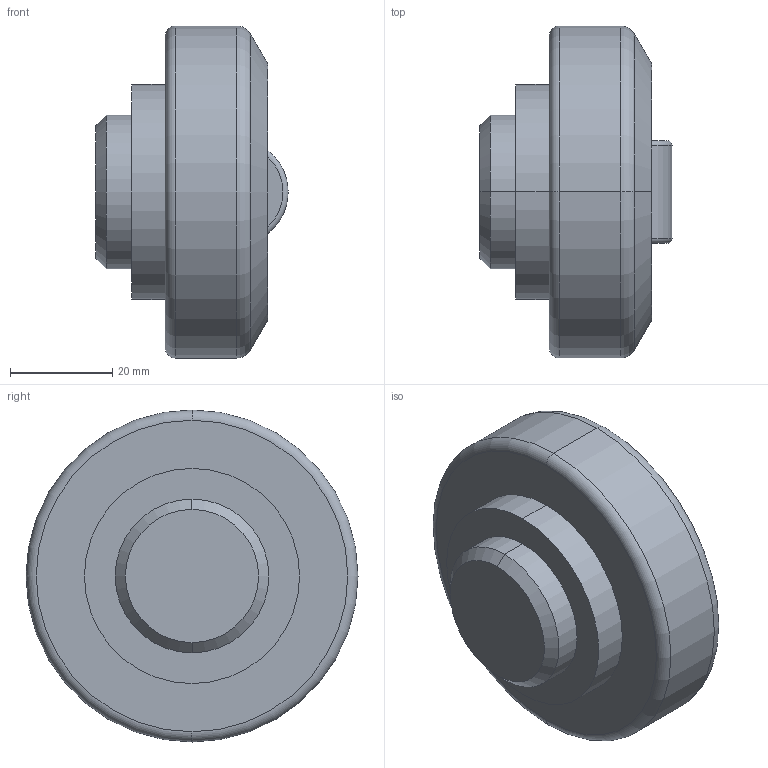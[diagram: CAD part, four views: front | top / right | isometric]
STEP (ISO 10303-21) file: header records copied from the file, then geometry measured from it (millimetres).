
FILE_DESCRIPTION (( 'STEP AP214' ), '1' );
FILE_NAME ('3D 4.0454 PR.STEP', '2013-12-09T09:07:04', ( 'usuario' ), ( 'Hewlett-Packard Company' ), 'SwSTEP 2.0', 'SolidWorks 2017', '' );
FILE_SCHEMA (( 'AUTOMOTIVE_DESIGN' ));
Length unit declared in the file: millimetre
Products named in the file (1): 3D 4.0454 PR
Bounding box: 37.49 x 64.8 x 64.8 mm (x, y, z)
Volume: 77393.5 mm3; surface area: 11287.1 mm2
Topology: 1 solids, 1 shells, 23 faces, 46 edges, 28 vertices
Faces by surface type: cylinder 7, torus 6, plane 6, cone 4
Entity records: 666 total; most frequent: CARTESIAN_POINT 134, DIRECTION 118, ORIENTED_EDGE 92, AXIS2_PLACEMENT_3D 52, EDGE_CURVE 46, VERTEX_POINT 28, CIRCLE 28, EDGE_LOOP 26
